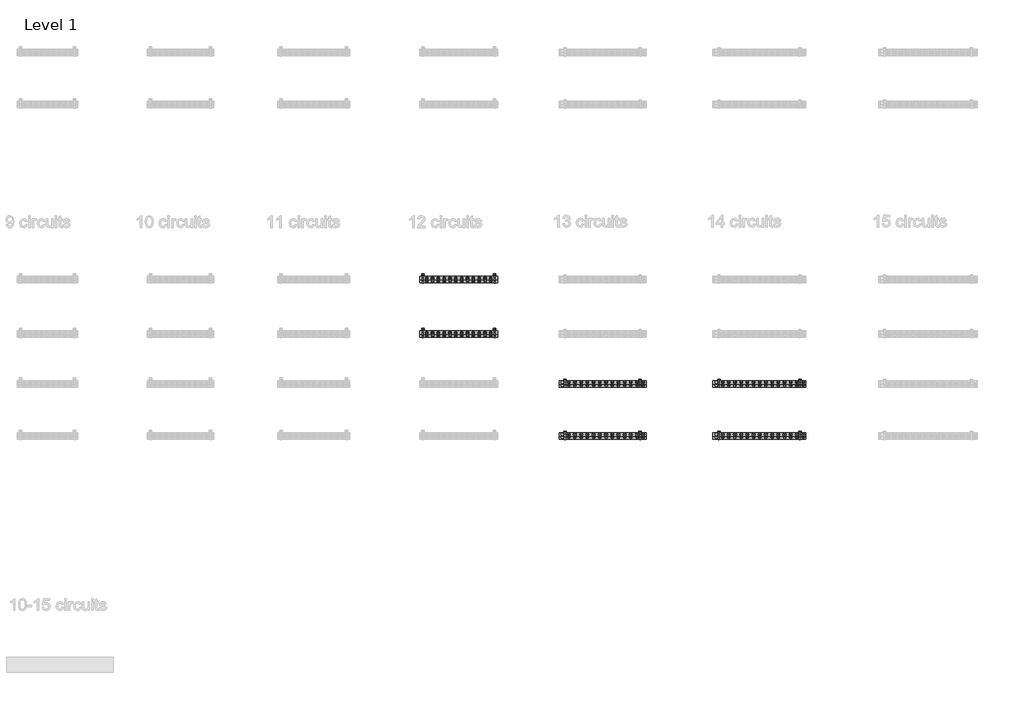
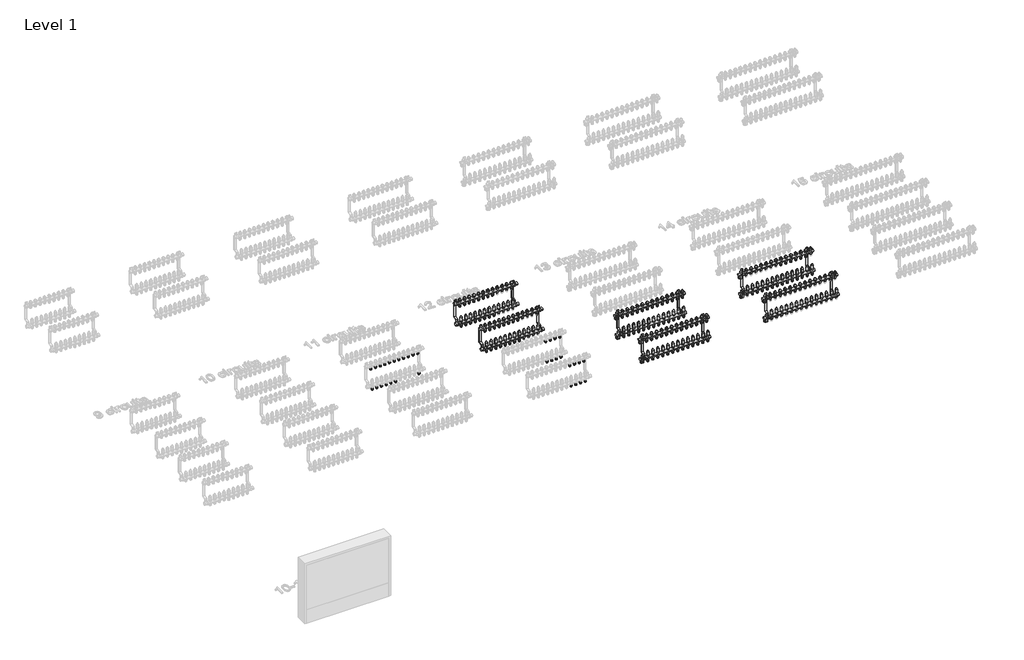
# One storey, part 5 of 23: 137 pipe fittings, 6 valves.
"""IFC4 building model written with IfcOpenShell, lengths in millimetres."""

from ifc_helpers import new_model, si_unit, origin, place, context, project, spatial, transform, mapped, element, save
from components import pipe_fitting_03c6499f, valve_28fdf4a6, valve_a7423dcf, valve_d379a65c, valve_24eee51e, valve_cb73cf64, valve_9b29a5eb, valve_b9f81a7f, valve_96d576d6, valve_5ad404c9, valve_4cbf1be7, valve_3248c627, valve_ecf45875

model = new_model("IFC4")

# Units and contexts
model_context = context("Model", 3, world=origin())
ifc_project = project(units=[si_unit("LENGTHUNIT", "METRE", prefix="MILLI")], contexts=[model_context])

# Site, building, storey
site = spatial("IfcSite", under=ifc_project)
building = spatial("IfcBuilding", under=site)
storey = spatial("IfcBuildingStorey", under=building, Name="Level 1", Elevation=0.0)

# Pipe fittings
placement = place(None, origin())
pipe_fitting_shape = pipe_fitting_03c6499f(model_context)
element("IfcPipeFitting", 1, ObjectType="Euroconus screwing for multilayer pipes - Manifold FT : Euroconus screwing for multilayer pipes - Manifold FT", at=placement, inside=storey, context=model_context, shape_type="MappedRepresentation", body=[
    mapped(pipe_fitting_shape, transform((11977.8887771, -1164.6959314, 62.88733), x_axis=(0.0, 0.0, -1.0), y_axis=(0.0, 1.0000000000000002, 0.0), z_axis=(1.0000000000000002, 0.0, 0.0))),
])
element("IfcPipeFitting", 2, ObjectType="Euroconus screwing for multilayer pipes - Manifold FT : Euroconus screwing for multilayer pipes - Manifold FT", at=placement, inside=storey, context=model_context, shape_type="MappedRepresentation", body=[
    mapped(pipe_fitting_shape, transform((11928.6160498, -1164.6959314, 62.88733), x_axis=(0.0, 0.0, -1.0), y_axis=(0.0, 1.0000000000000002, 0.0), z_axis=(1.0000000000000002, 0.0, 0.0))),
])
element("IfcPipeFitting", 3, ObjectType="Euroconus screwing for multilayer pipes - Manifold FT : Euroconus screwing for multilayer pipes - Manifold FT", at=placement, inside=storey, context=model_context, shape_type="MappedRepresentation", body=[
    mapped(pipe_fitting_shape, transform((11879.3433225, -1164.6959314, 62.88733), x_axis=(0.0, 0.0, -1.0), y_axis=(0.0, 1.0000000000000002, 0.0), z_axis=(1.0000000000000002, 0.0, 0.0))),
])
element("IfcPipeFitting", 4, ObjectType="Euroconus screwing for multilayer pipes - Manifold FT : Euroconus screwing for multilayer pipes - Manifold FT", at=placement, inside=storey, context=model_context, shape_type="MappedRepresentation", body=[
    mapped(pipe_fitting_shape, transform((11830.0705953, -1164.6959314, 62.88733), x_axis=(0.0, 0.0, -1.0), y_axis=(0.0, 1.0000000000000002, 0.0), z_axis=(1.0000000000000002, 0.0, 0.0))),
])
element("IfcPipeFitting", 5, ObjectType="Euroconus screwing for multilayer pipes - Manifold FT : Euroconus screwing for multilayer pipes - Manifold FT", at=placement, inside=storey, context=model_context, shape_type="MappedRepresentation", body=[
    mapped(pipe_fitting_shape, transform((11780.797868, -1164.6959314, 62.88733), x_axis=(0.0, 0.0, -1.0), y_axis=(0.0, 1.0000000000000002, 0.0), z_axis=(1.0000000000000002, 0.0, 0.0))),
])
element("IfcPipeFitting", 6, ObjectType="Euroconus screwing for multilayer pipes - Manifold FT : Euroconus screwing for multilayer pipes - Manifold FT", at=placement, inside=storey, context=model_context, shape_type="MappedRepresentation", body=[
    mapped(pipe_fitting_shape, transform((11731.5251407, -1164.6959314, 62.88733), x_axis=(0.0, 0.0, -1.0), y_axis=(0.0, 1.0000000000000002, 0.0), z_axis=(1.0000000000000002, 0.0, 0.0))),
])
element("IfcPipeFitting", 7, ObjectType="Euroconus screwing for multilayer pipes - Manifold FT : Euroconus screwing for multilayer pipes - Manifold FT", at=placement, inside=storey, context=model_context, shape_type="MappedRepresentation", body=[
    mapped(pipe_fitting_shape, transform((11682.2524134, -1164.6959314, 62.88733), x_axis=(0.0, 0.0, -1.0), y_axis=(0.0, 1.0000000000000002, 0.0), z_axis=(1.0000000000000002, 0.0, 0.0))),
])
element("IfcPipeFitting", 8, ObjectType="Euroconus screwing for multilayer pipes - Manifold FT : Euroconus screwing for multilayer pipes - Manifold FT", at=placement, inside=storey, context=model_context, shape_type="MappedRepresentation", body=[
    mapped(pipe_fitting_shape, transform((11977.8887771, -1139.6959314, 272.88733), x_axis=(0.0, 0.0, -1.0), y_axis=(0.0, 1.0000000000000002, 0.0), z_axis=(1.0000000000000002, 0.0, 0.0))),
])
element("IfcPipeFitting", 9, ObjectType="Euroconus screwing for multilayer pipes - Manifold FT : Euroconus screwing for multilayer pipes - Manifold FT", at=placement, inside=storey, context=model_context, shape_type="MappedRepresentation", body=[
    mapped(pipe_fitting_shape, transform((11928.6160498, -1139.6959314, 272.88733), x_axis=(0.0, 0.0, -1.0), y_axis=(0.0, 1.0000000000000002, 0.0), z_axis=(1.0000000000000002, 0.0, 0.0))),
])
element("IfcPipeFitting", 10, ObjectType="Euroconus screwing for multilayer pipes - Manifold FT : Euroconus screwing for multilayer pipes - Manifold FT", at=placement, inside=storey, context=model_context, shape_type="MappedRepresentation", body=[
    mapped(pipe_fitting_shape, transform((11879.3433225, -1139.6959314, 272.88733), x_axis=(0.0, 0.0, -1.0), y_axis=(0.0, 1.0000000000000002, 0.0), z_axis=(1.0000000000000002, 0.0, 0.0))),
])
element("IfcPipeFitting", 11, ObjectType="Euroconus screwing for multilayer pipes - Manifold FT : Euroconus screwing for multilayer pipes - Manifold FT", at=placement, inside=storey, context=model_context, shape_type="MappedRepresentation", body=[
    mapped(pipe_fitting_shape, transform((11830.0705953, -1139.6959314, 272.88733), x_axis=(0.0, 0.0, -1.0), y_axis=(0.0, 1.0000000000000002, 0.0), z_axis=(1.0000000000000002, 0.0, 0.0))),
])
element("IfcPipeFitting", 12, ObjectType="Euroconus screwing for multilayer pipes - Manifold FT : Euroconus screwing for multilayer pipes - Manifold FT", at=placement, inside=storey, context=model_context, shape_type="MappedRepresentation", body=[
    mapped(pipe_fitting_shape, transform((11780.797868, -1139.6959314, 272.88733), x_axis=(0.0, 0.0, -1.0), y_axis=(0.0, 1.0000000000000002, 0.0), z_axis=(1.0000000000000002, 0.0, 0.0))),
])
element("IfcPipeFitting", 13, ObjectType="Euroconus screwing for multilayer pipes - Manifold FT : Euroconus screwing for multilayer pipes - Manifold FT", at=placement, inside=storey, context=model_context, shape_type="MappedRepresentation", body=[
    mapped(pipe_fitting_shape, transform((11731.5251407, -1139.6959314, 272.88733), x_axis=(0.0, 0.0, -1.0), y_axis=(0.0, 1.0000000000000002, 0.0), z_axis=(1.0000000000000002, 0.0, 0.0))),
])
element("IfcPipeFitting", 14, ObjectType="Euroconus screwing for multilayer pipes - Manifold FT : Euroconus screwing for multilayer pipes - Manifold FT", at=placement, inside=storey, context=model_context, shape_type="MappedRepresentation", body=[
    mapped(pipe_fitting_shape, transform((11682.2524134, -1139.6959314, 272.88733), x_axis=(0.0, 0.0, -1.0), y_axis=(0.0, 1.0000000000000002, 0.0), z_axis=(1.0000000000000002, 0.0, 0.0))),
])
element("IfcPipeFitting", 15, ObjectType="Euroconus screwing for multilayer pipes - Manifold FT : Euroconus screwing for multilayer pipes - Manifold FT", at=placement, inside=storey, context=model_context, shape_type="MappedRepresentation", body=[
    mapped(pipe_fitting_shape, transform((11632.9796862, -1164.6959314, 62.88733), x_axis=(0.0, 0.0, -1.0), y_axis=(0.0, 1.0000000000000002, 0.0), z_axis=(1.0000000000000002, 0.0, 0.0))),
])
element("IfcPipeFitting", 16, ObjectType="Euroconus screwing for multilayer pipes - Manifold FT : Euroconus screwing for multilayer pipes - Manifold FT", at=placement, inside=storey, context=model_context, shape_type="MappedRepresentation", body=[
    mapped(pipe_fitting_shape, transform((11632.9796862, -1139.6959314, 272.88733), x_axis=(0.0, 0.0, -1.0), y_axis=(0.0, 1.0000000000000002, 0.0), z_axis=(1.0000000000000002, 0.0, 0.0))),
])
element("IfcPipeFitting", 17, ObjectType="Euroconus screwing for multilayer pipes - Manifold FT : Euroconus screwing for multilayer pipes - Manifold FT", at=placement, inside=storey, context=model_context, shape_type="MappedRepresentation", body=[
    mapped(pipe_fitting_shape, transform((10678.9796862, -1624.6959314, 62.88733), x_axis=(0.0, 0.0, -1.0), y_axis=(0.0, 1.0000000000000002, 0.0), z_axis=(1.0000000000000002, 0.0, 0.0))),
])
element("IfcPipeFitting", 18, ObjectType="Euroconus screwing for multilayer pipes - Manifold FT : Euroconus screwing for multilayer pipes - Manifold FT", at=placement, inside=storey, context=model_context, shape_type="MappedRepresentation", body=[
    mapped(pipe_fitting_shape, transform((10629.7796862, -1624.6959314, 62.88733), x_axis=(0.0, 0.0, -1.0), y_axis=(0.0, 1.0000000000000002, 0.0), z_axis=(1.0000000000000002, 0.0, 0.0))),
])
element("IfcPipeFitting", 19, ObjectType="Euroconus screwing for multilayer pipes - Manifold FT : Euroconus screwing for multilayer pipes - Manifold FT", at=placement, inside=storey, context=model_context, shape_type="MappedRepresentation", body=[
    mapped(pipe_fitting_shape, transform((10580.5796862, -1624.6959314, 62.88733), x_axis=(0.0, 0.0, -1.0), y_axis=(0.0, 1.0000000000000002, 0.0), z_axis=(1.0000000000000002, 0.0, 0.0))),
])
element("IfcPipeFitting", 20, ObjectType="Euroconus screwing for multilayer pipes - Manifold FT : Euroconus screwing for multilayer pipes - Manifold FT", at=placement, inside=storey, context=model_context, shape_type="MappedRepresentation", body=[
    mapped(pipe_fitting_shape, transform((10531.3796862, -1624.6959314, 62.88733), x_axis=(0.0, 0.0, -1.0), y_axis=(0.0, 1.0000000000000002, 0.0), z_axis=(1.0000000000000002, 0.0, 0.0))),
])
element("IfcPipeFitting", 21, ObjectType="Euroconus screwing for multilayer pipes - Manifold FT : Euroconus screwing for multilayer pipes - Manifold FT", at=placement, inside=storey, context=model_context, shape_type="MappedRepresentation", body=[
    mapped(pipe_fitting_shape, transform((10482.1796862, -1624.6959314, 62.88733), x_axis=(0.0, 0.0, -1.0), y_axis=(0.0, 1.0000000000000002, 0.0), z_axis=(1.0000000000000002, 0.0, 0.0))),
])
element("IfcPipeFitting", 22, ObjectType="Euroconus screwing for multilayer pipes - Manifold FT : Euroconus screwing for multilayer pipes - Manifold FT", at=placement, inside=storey, context=model_context, shape_type="MappedRepresentation", body=[
    mapped(pipe_fitting_shape, transform((10924.9796862, -1624.6959314, 62.88733), x_axis=(0.0, 0.0, -1.0), y_axis=(0.0, 1.0000000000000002, 0.0), z_axis=(1.0000000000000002, 0.0, 0.0))),
])
element("IfcPipeFitting", 23, ObjectType="Euroconus screwing for multilayer pipes - Manifold FT : Euroconus screwing for multilayer pipes - Manifold FT", at=placement, inside=storey, context=model_context, shape_type="MappedRepresentation", body=[
    mapped(pipe_fitting_shape, transform((10875.7796862, -1599.6959314, 272.88733), x_axis=(0.0, 0.0, -1.0), y_axis=(0.0, 1.0000000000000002, 0.0), z_axis=(1.0000000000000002, 0.0, 0.0))),
])
element("IfcPipeFitting", 24, ObjectType="Euroconus screwing for multilayer pipes - Manifold FT : Euroconus screwing for multilayer pipes - Manifold FT", at=placement, inside=storey, context=model_context, shape_type="MappedRepresentation", body=[
    mapped(pipe_fitting_shape, transform((10826.5796862, -1599.6959314, 272.88733), x_axis=(0.0, 0.0, -1.0), y_axis=(0.0, 1.0000000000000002, 0.0), z_axis=(1.0000000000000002, 0.0, 0.0))),
])
element("IfcPipeFitting", 25, ObjectType="Euroconus screwing for multilayer pipes - Manifold FT : Euroconus screwing for multilayer pipes - Manifold FT", at=placement, inside=storey, context=model_context, shape_type="MappedRepresentation", body=[
    mapped(pipe_fitting_shape, transform((10777.3796862, -1599.6959314, 272.88733), x_axis=(0.0, 0.0, -1.0), y_axis=(0.0, 1.0000000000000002, 0.0), z_axis=(1.0000000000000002, 0.0, 0.0))),
])
element("IfcPipeFitting", 26, ObjectType="Euroconus screwing for multilayer pipes - Manifold FT : Euroconus screwing for multilayer pipes - Manifold FT", at=placement, inside=storey, context=model_context, shape_type="MappedRepresentation", body=[
    mapped(pipe_fitting_shape, transform((10728.1796862, -1599.6959314, 272.88733), x_axis=(0.0, 0.0, -1.0), y_axis=(0.0, 1.0000000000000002, 0.0), z_axis=(1.0000000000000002, 0.0, 0.0))),
])
element("IfcPipeFitting", 27, ObjectType="Euroconus screwing for multilayer pipes - Manifold FT : Euroconus screwing for multilayer pipes - Manifold FT", at=placement, inside=storey, context=model_context, shape_type="MappedRepresentation", body=[
    mapped(pipe_fitting_shape, transform((10678.9796862, -1599.6959314, 272.88733), x_axis=(0.0, 0.0, -1.0), y_axis=(0.0, 1.0000000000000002, 0.0), z_axis=(1.0000000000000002, 0.0, 0.0))),
])
element("IfcPipeFitting", 28, ObjectType="Euroconus screwing for multilayer pipes - Manifold FT : Euroconus screwing for multilayer pipes - Manifold FT", at=placement, inside=storey, context=model_context, shape_type="MappedRepresentation", body=[
    mapped(pipe_fitting_shape, transform((10629.7796862, -1599.6959314, 272.88733), x_axis=(0.0, 0.0, -1.0), y_axis=(0.0, 1.0000000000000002, 0.0), z_axis=(1.0000000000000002, 0.0, 0.0))),
])
element("IfcPipeFitting", 29, ObjectType="Euroconus screwing for multilayer pipes - Manifold FT : Euroconus screwing for multilayer pipes - Manifold FT", at=placement, inside=storey, context=model_context, shape_type="MappedRepresentation", body=[
    mapped(pipe_fitting_shape, transform((10580.5796862, -1599.6959314, 272.88733), x_axis=(0.0, 0.0, -1.0), y_axis=(0.0, 1.0000000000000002, 0.0), z_axis=(1.0000000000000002, 0.0, 0.0))),
])
element("IfcPipeFitting", 30, ObjectType="Euroconus screwing for multilayer pipes - Manifold FT : Euroconus screwing for multilayer pipes - Manifold FT", at=placement, inside=storey, context=model_context, shape_type="MappedRepresentation", body=[
    mapped(pipe_fitting_shape, transform((10531.3796862, -1599.6959314, 272.88733), x_axis=(0.0, 0.0, -1.0), y_axis=(0.0, 1.0000000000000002, 0.0), z_axis=(1.0000000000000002, 0.0, 0.0))),
])
element("IfcPipeFitting", 31, ObjectType="Euroconus screwing for multilayer pipes - Manifold FT : Euroconus screwing for multilayer pipes - Manifold FT", at=placement, inside=storey, context=model_context, shape_type="MappedRepresentation", body=[
    mapped(pipe_fitting_shape, transform((10482.1796862, -1599.6959314, 272.88733), x_axis=(0.0, 0.0, -1.0), y_axis=(0.0, 1.0000000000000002, 0.0), z_axis=(1.0000000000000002, 0.0, 0.0))),
])
element("IfcPipeFitting", 32, ObjectType="Euroconus screwing for multilayer pipes - Manifold FT : Euroconus screwing for multilayer pipes - Manifold FT", at=placement, inside=storey, context=model_context, shape_type="MappedRepresentation", body=[
    mapped(pipe_fitting_shape, transform((10924.9796862, -1599.6959314, 272.88733), x_axis=(0.0, 0.0, -1.0), y_axis=(0.0, 1.0000000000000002, 0.0), z_axis=(1.0000000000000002, 0.0, 0.0))),
])
element("IfcPipeFitting", 33, ObjectType="Euroconus screwing for multilayer pipes - Manifold FT : Euroconus screwing for multilayer pipes - Manifold FT", at=placement, inside=storey, context=model_context, shape_type="MappedRepresentation", body=[
    mapped(pipe_fitting_shape, transform((10432.9796862, -1624.6959314, 62.88733), x_axis=(0.0, 0.0, -1.0), y_axis=(0.0, 1.0000000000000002, 0.0), z_axis=(1.0000000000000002, 0.0, 0.0))),
])
element("IfcPipeFitting", 34, ObjectType="Euroconus screwing for multilayer pipes - Manifold FT : Euroconus screwing for multilayer pipes - Manifold FT", at=placement, inside=storey, context=model_context, shape_type="MappedRepresentation", body=[
    mapped(pipe_fitting_shape, transform((10432.9796862, -1599.6959314, 272.88733), x_axis=(0.0, 0.0, -1.0), y_axis=(0.0, 1.0000000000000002, 0.0), z_axis=(1.0000000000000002, 0.0, 0.0))),
])
element("IfcPipeFitting", 35, ObjectType="Euroconus screwing for multilayer pipes - Manifold FT : Euroconus screwing for multilayer pipes - Manifold FT", at=placement, inside=storey, context=model_context, shape_type="MappedRepresentation", body=[
    mapped(pipe_fitting_shape, transform((11977.8887771, -1624.6959314, 62.88733), x_axis=(0.0, 0.0, -1.0), y_axis=(0.0, 1.0000000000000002, 0.0), z_axis=(1.0000000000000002, 0.0, 0.0))),
])
element("IfcPipeFitting", 36, ObjectType="Euroconus screwing for multilayer pipes - Manifold FT : Euroconus screwing for multilayer pipes - Manifold FT", at=placement, inside=storey, context=model_context, shape_type="MappedRepresentation", body=[
    mapped(pipe_fitting_shape, transform((11928.6160498, -1624.6959314, 62.88733), x_axis=(0.0, 0.0, -1.0), y_axis=(0.0, 1.0000000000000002, 0.0), z_axis=(1.0000000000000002, 0.0, 0.0))),
])
element("IfcPipeFitting", 37, ObjectType="Euroconus screwing for multilayer pipes - Manifold FT : Euroconus screwing for multilayer pipes - Manifold FT", at=placement, inside=storey, context=model_context, shape_type="MappedRepresentation", body=[
    mapped(pipe_fitting_shape, transform((11879.3433225, -1624.6959314, 62.88733), x_axis=(0.0, 0.0, -1.0), y_axis=(0.0, 1.0000000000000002, 0.0), z_axis=(1.0000000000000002, 0.0, 0.0))),
])
element("IfcPipeFitting", 38, ObjectType="Euroconus screwing for multilayer pipes - Manifold FT : Euroconus screwing for multilayer pipes - Manifold FT", at=placement, inside=storey, context=model_context, shape_type="MappedRepresentation", body=[
    mapped(pipe_fitting_shape, transform((11830.0705953, -1624.6959314, 62.88733), x_axis=(0.0, 0.0, -1.0), y_axis=(0.0, 1.0000000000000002, 0.0), z_axis=(1.0000000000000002, 0.0, 0.0))),
])
element("IfcPipeFitting", 39, ObjectType="Euroconus screwing for multilayer pipes - Manifold FT : Euroconus screwing for multilayer pipes - Manifold FT", at=placement, inside=storey, context=model_context, shape_type="MappedRepresentation", body=[
    mapped(pipe_fitting_shape, transform((11780.797868, -1624.6959314, 62.88733), x_axis=(0.0, 0.0, -1.0), y_axis=(0.0, 1.0000000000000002, 0.0), z_axis=(1.0000000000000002, 0.0, 0.0))),
])
element("IfcPipeFitting", 40, ObjectType="Euroconus screwing for multilayer pipes - Manifold FT : Euroconus screwing for multilayer pipes - Manifold FT", at=placement, inside=storey, context=model_context, shape_type="MappedRepresentation", body=[
    mapped(pipe_fitting_shape, transform((11731.5251407, -1624.6959314, 62.88733), x_axis=(0.0, 0.0, -1.0), y_axis=(0.0, 1.0000000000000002, 0.0), z_axis=(1.0000000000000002, 0.0, 0.0))),
])
element("IfcPipeFitting", 41, ObjectType="Euroconus screwing for multilayer pipes - Manifold FT : Euroconus screwing for multilayer pipes - Manifold FT", at=placement, inside=storey, context=model_context, shape_type="MappedRepresentation", body=[
    mapped(pipe_fitting_shape, transform((11682.2524134, -1624.6959314, 62.88733), x_axis=(0.0, 0.0, -1.0), y_axis=(0.0, 1.0000000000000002, 0.0), z_axis=(1.0000000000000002, 0.0, 0.0))),
])
element("IfcPipeFitting", 42, ObjectType="Euroconus screwing for multilayer pipes - Manifold FT : Euroconus screwing for multilayer pipes - Manifold FT", at=placement, inside=storey, context=model_context, shape_type="MappedRepresentation", body=[
    mapped(pipe_fitting_shape, transform((11977.8887771, -1599.6959314, 272.88733), x_axis=(0.0, 0.0, -1.0), y_axis=(0.0, 1.0000000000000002, 0.0), z_axis=(1.0000000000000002, 0.0, 0.0))),
])
element("IfcPipeFitting", 43, ObjectType="Euroconus screwing for multilayer pipes - Manifold FT : Euroconus screwing for multilayer pipes - Manifold FT", at=placement, inside=storey, context=model_context, shape_type="MappedRepresentation", body=[
    mapped(pipe_fitting_shape, transform((11928.6160498, -1599.6959314, 272.88733), x_axis=(0.0, 0.0, -1.0), y_axis=(0.0, 1.0000000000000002, 0.0), z_axis=(1.0000000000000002, 0.0, 0.0))),
])
element("IfcPipeFitting", 44, ObjectType="Euroconus screwing for multilayer pipes - Manifold FT : Euroconus screwing for multilayer pipes - Manifold FT", at=placement, inside=storey, context=model_context, shape_type="MappedRepresentation", body=[
    mapped(pipe_fitting_shape, transform((11879.3433225, -1599.6959314, 272.88733), x_axis=(0.0, 0.0, -1.0), y_axis=(0.0, 1.0000000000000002, 0.0), z_axis=(1.0000000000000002, 0.0, 0.0))),
])
element("IfcPipeFitting", 45, ObjectType="Euroconus screwing for multilayer pipes - Manifold FT : Euroconus screwing for multilayer pipes - Manifold FT", at=placement, inside=storey, context=model_context, shape_type="MappedRepresentation", body=[
    mapped(pipe_fitting_shape, transform((11830.0705953, -1599.6959314, 272.88733), x_axis=(0.0, 0.0, -1.0), y_axis=(0.0, 1.0000000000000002, 0.0), z_axis=(1.0000000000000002, 0.0, 0.0))),
])
element("IfcPipeFitting", 46, ObjectType="Euroconus screwing for multilayer pipes - Manifold FT : Euroconus screwing for multilayer pipes - Manifold FT", at=placement, inside=storey, context=model_context, shape_type="MappedRepresentation", body=[
    mapped(pipe_fitting_shape, transform((11780.797868, -1599.6959314, 272.88733), x_axis=(0.0, 0.0, -1.0), y_axis=(0.0, 1.0000000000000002, 0.0), z_axis=(1.0000000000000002, 0.0, 0.0))),
])
element("IfcPipeFitting", 47, ObjectType="Euroconus screwing for multilayer pipes - Manifold FT : Euroconus screwing for multilayer pipes - Manifold FT", at=placement, inside=storey, context=model_context, shape_type="MappedRepresentation", body=[
    mapped(pipe_fitting_shape, transform((11731.5251407, -1599.6959314, 272.88733), x_axis=(0.0, 0.0, -1.0), y_axis=(0.0, 1.0000000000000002, 0.0), z_axis=(1.0000000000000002, 0.0, 0.0))),
])
element("IfcPipeFitting", 48, ObjectType="Euroconus screwing for multilayer pipes - Manifold FT : Euroconus screwing for multilayer pipes - Manifold FT", at=placement, inside=storey, context=model_context, shape_type="MappedRepresentation", body=[
    mapped(pipe_fitting_shape, transform((11682.2524134, -1599.6959314, 272.88733), x_axis=(0.0, 0.0, -1.0), y_axis=(0.0, 1.0000000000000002, 0.0), z_axis=(1.0000000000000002, 0.0, 0.0))),
])
element("IfcPipeFitting", 49, ObjectType="Euroconus screwing for multilayer pipes - Manifold FT : Euroconus screwing for multilayer pipes - Manifold FT", at=placement, inside=storey, context=model_context, shape_type="MappedRepresentation", body=[
    mapped(pipe_fitting_shape, transform((11632.9796862, -1624.6959314, 62.88733), x_axis=(0.0, 0.0, -1.0), y_axis=(0.0, 1.0000000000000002, 0.0), z_axis=(1.0000000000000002, 0.0, 0.0))),
])
element("IfcPipeFitting", 50, ObjectType="Euroconus screwing for multilayer pipes - Manifold FT : Euroconus screwing for multilayer pipes - Manifold FT", at=placement, inside=storey, context=model_context, shape_type="MappedRepresentation", body=[
    mapped(pipe_fitting_shape, transform((11632.9796862, -1599.6959314, 272.88733), x_axis=(0.0, 0.0, -1.0), y_axis=(0.0, 1.0000000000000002, 0.0), z_axis=(1.0000000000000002, 0.0, 0.0))),
])
element("IfcPipeFitting", 51, ObjectType="Euroconus screwing for multilayer pipes - Manifold FT : Euroconus screwing for multilayer pipes - Manifold FT", at=placement, inside=storey, context=model_context, shape_type="MappedRepresentation", body=[
    mapped(pipe_fitting_shape, transform((12125.7069589, -2044.6959314, 62.88733), x_axis=(0.0, 0.0, -1.0), y_axis=(0.0, 1.0000000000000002, 0.0), z_axis=(1.0000000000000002, 0.0, 0.0))),
])
element("IfcPipeFitting", 52, ObjectType="Euroconus screwing for multilayer pipes - Manifold FT : Euroconus screwing for multilayer pipes - Manifold FT", at=placement, inside=storey, context=model_context, shape_type="MappedRepresentation", body=[
    mapped(pipe_fitting_shape, transform((12076.4342316, -2044.6959314, 62.88733), x_axis=(0.0, 0.0, -1.0), y_axis=(0.0, 1.0000000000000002, 0.0), z_axis=(1.0000000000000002, 0.0, 0.0))),
])
element("IfcPipeFitting", 53, ObjectType="Euroconus screwing for multilayer pipes - Manifold FT : Euroconus screwing for multilayer pipes - Manifold FT", at=placement, inside=storey, context=model_context, shape_type="MappedRepresentation", body=[
    mapped(pipe_fitting_shape, transform((12027.1615043, -2044.6959314, 62.88733), x_axis=(0.0, 0.0, -1.0), y_axis=(0.0, 1.0000000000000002, 0.0), z_axis=(1.0000000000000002, 0.0, 0.0))),
])
element("IfcPipeFitting", 54, ObjectType="Euroconus screwing for multilayer pipes - Manifold FT : Euroconus screwing for multilayer pipes - Manifold FT", at=placement, inside=storey, context=model_context, shape_type="MappedRepresentation", body=[
    mapped(pipe_fitting_shape, transform((12174.9796862, -2044.6959314, 62.88733), x_axis=(0.0, 0.0, -1.0), y_axis=(0.0, 1.0000000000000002, 0.0), z_axis=(1.0000000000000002, 0.0, 0.0))),
])
element("IfcPipeFitting", 55, ObjectType="Euroconus screwing for multilayer pipes - Manifold FT : Euroconus screwing for multilayer pipes - Manifold FT", at=placement, inside=storey, context=model_context, shape_type="MappedRepresentation", body=[
    mapped(pipe_fitting_shape, transform((12125.7069589, -2019.6959314, 272.88733), x_axis=(0.0, 0.0, -1.0), y_axis=(0.0, 1.0000000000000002, 0.0), z_axis=(1.0000000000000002, 0.0, 0.0))),
])
element("IfcPipeFitting", 56, ObjectType="Euroconus screwing for multilayer pipes - Manifold FT : Euroconus screwing for multilayer pipes - Manifold FT", at=placement, inside=storey, context=model_context, shape_type="MappedRepresentation", body=[
    mapped(pipe_fitting_shape, transform((12076.4342316, -2019.6959314, 272.88733), x_axis=(0.0, 0.0, -1.0), y_axis=(0.0, 1.0000000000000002, 0.0), z_axis=(1.0000000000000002, 0.0, 0.0))),
])
element("IfcPipeFitting", 57, ObjectType="Euroconus screwing for multilayer pipes - Manifold FT : Euroconus screwing for multilayer pipes - Manifold FT", at=placement, inside=storey, context=model_context, shape_type="MappedRepresentation", body=[
    mapped(pipe_fitting_shape, transform((12027.1615043, -2019.6959314, 272.88733), x_axis=(0.0, 0.0, -1.0), y_axis=(0.0, 1.0000000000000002, 0.0), z_axis=(1.0000000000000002, 0.0, 0.0))),
])
element("IfcPipeFitting", 58, ObjectType="Euroconus screwing for multilayer pipes - Manifold FT : Euroconus screwing for multilayer pipes - Manifold FT", at=placement, inside=storey, context=model_context, shape_type="MappedRepresentation", body=[
    mapped(pipe_fitting_shape, transform((12174.9796862, -2019.6959314, 272.88733), x_axis=(0.0, 0.0, -1.0), y_axis=(0.0, 1.0000000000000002, 0.0), z_axis=(1.0000000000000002, 0.0, 0.0))),
])
element("IfcPipeFitting", 59, ObjectType="Euroconus screwing for multilayer pipes - Manifold FT : Euroconus screwing for multilayer pipes - Manifold FT", at=placement, inside=storey, context=model_context, shape_type="MappedRepresentation", body=[
    mapped(pipe_fitting_shape, transform((13410.4796862, -2044.6959314, 62.88733), x_axis=(0.0, 0.0, -1.0), y_axis=(0.0, 1.0000000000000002, 0.0), z_axis=(1.0000000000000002, 0.0, 0.0))),
])
element("IfcPipeFitting", 60, ObjectType="Euroconus screwing for multilayer pipes - Manifold FT : Euroconus screwing for multilayer pipes - Manifold FT", at=placement, inside=storey, context=model_context, shape_type="MappedRepresentation", body=[
    mapped(pipe_fitting_shape, transform((13357.9796862, -2044.6959314, 62.88733), x_axis=(0.0, 0.0, -1.0), y_axis=(0.0, 1.0000000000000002, 0.0), z_axis=(1.0000000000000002, 0.0, 0.0))),
])
element("IfcPipeFitting", 61, ObjectType="Euroconus screwing for multilayer pipes - Manifold FT : Euroconus screwing for multilayer pipes - Manifold FT", at=placement, inside=storey, context=model_context, shape_type="MappedRepresentation", body=[
    mapped(pipe_fitting_shape, transform((13305.4796862, -2044.6959314, 62.88733), x_axis=(0.0, 0.0, -1.0), y_axis=(0.0, 1.0000000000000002, 0.0), z_axis=(1.0000000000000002, 0.0, 0.0))),
])
element("IfcPipeFitting", 62, ObjectType="Euroconus screwing for multilayer pipes - Manifold FT : Euroconus screwing for multilayer pipes - Manifold FT", at=placement, inside=storey, context=model_context, shape_type="MappedRepresentation", body=[
    mapped(pipe_fitting_shape, transform((13252.9796862, -2044.6959314, 62.88733), x_axis=(0.0, 0.0, -1.0), y_axis=(0.0, 1.0000000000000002, 0.0), z_axis=(1.0000000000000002, 0.0, 0.0))),
])
element("IfcPipeFitting", 63, ObjectType="Euroconus screwing for multilayer pipes - Manifold FT : Euroconus screwing for multilayer pipes - Manifold FT", at=placement, inside=storey, context=model_context, shape_type="MappedRepresentation", body=[
    mapped(pipe_fitting_shape, transform((13200.4796862, -2044.6959314, 62.88733), x_axis=(0.0, 0.0, -1.0), y_axis=(0.0, 1.0000000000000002, 0.0), z_axis=(1.0000000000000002, 0.0, 0.0))),
])
element("IfcPipeFitting", 64, ObjectType="Euroconus screwing for multilayer pipes - Manifold FT : Euroconus screwing for multilayer pipes - Manifold FT", at=placement, inside=storey, context=model_context, shape_type="MappedRepresentation", body=[
    mapped(pipe_fitting_shape, transform((13147.9796862, -2044.6959314, 62.88733), x_axis=(0.0, 0.0, -1.0), y_axis=(0.0, 1.0000000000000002, 0.0), z_axis=(1.0000000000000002, 0.0, 0.0))),
])
element("IfcPipeFitting", 65, ObjectType="Euroconus screwing for multilayer pipes - Manifold FT : Euroconus screwing for multilayer pipes - Manifold FT", at=placement, inside=storey, context=model_context, shape_type="MappedRepresentation", body=[
    mapped(pipe_fitting_shape, transform((13095.4796862, -2044.6959314, 62.88733), x_axis=(0.0, 0.0, -1.0), y_axis=(0.0, 1.0000000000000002, 0.0), z_axis=(1.0000000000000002, 0.0, 0.0))),
])
element("IfcPipeFitting", 66, ObjectType="Euroconus screwing for multilayer pipes - Manifold FT : Euroconus screwing for multilayer pipes - Manifold FT", at=placement, inside=storey, context=model_context, shape_type="MappedRepresentation", body=[
    mapped(pipe_fitting_shape, transform((13042.9796862, -2044.6959314, 62.88733), x_axis=(0.0, 0.0, -1.0), y_axis=(0.0, 1.0000000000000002, 0.0), z_axis=(1.0000000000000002, 0.0, 0.0))),
])
element("IfcPipeFitting", 67, ObjectType="Euroconus screwing for multilayer pipes - Manifold FT : Euroconus screwing for multilayer pipes - Manifold FT", at=placement, inside=storey, context=model_context, shape_type="MappedRepresentation", body=[
    mapped(pipe_fitting_shape, transform((12990.4796862, -2044.6959314, 62.88733), x_axis=(0.0, 0.0, -1.0), y_axis=(0.0, 1.0000000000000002, 0.0), z_axis=(1.0000000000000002, 0.0, 0.0))),
])
element("IfcPipeFitting", 68, ObjectType="Euroconus screwing for multilayer pipes - Manifold FT : Euroconus screwing for multilayer pipes - Manifold FT", at=placement, inside=storey, context=model_context, shape_type="MappedRepresentation", body=[
    mapped(pipe_fitting_shape, transform((12937.9796862, -2044.6959314, 62.88733), x_axis=(0.0, 0.0, -1.0), y_axis=(0.0, 1.0000000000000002, 0.0), z_axis=(1.0000000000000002, 0.0, 0.0))),
])
element("IfcPipeFitting", 69, ObjectType="Euroconus screwing for multilayer pipes - Manifold FT : Euroconus screwing for multilayer pipes - Manifold FT", at=placement, inside=storey, context=model_context, shape_type="MappedRepresentation", body=[
    mapped(pipe_fitting_shape, transform((12885.4796862, -2044.6959314, 62.88733), x_axis=(0.0, 0.0, -1.0), y_axis=(0.0, 1.0000000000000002, 0.0), z_axis=(1.0000000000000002, 0.0, 0.0))),
])
element("IfcPipeFitting", 70, ObjectType="Euroconus screwing for multilayer pipes - Manifold FT : Euroconus screwing for multilayer pipes - Manifold FT", at=placement, inside=storey, context=model_context, shape_type="MappedRepresentation", body=[
    mapped(pipe_fitting_shape, transform((13462.9796862, -2044.6959314, 62.88733), x_axis=(0.0, 0.0, -1.0), y_axis=(0.0, 1.0000000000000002, 0.0), z_axis=(1.0000000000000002, 0.0, 0.0))),
])
element("IfcPipeFitting", 71, ObjectType="Euroconus screwing for multilayer pipes - Manifold FT : Euroconus screwing for multilayer pipes - Manifold FT", at=placement, inside=storey, context=model_context, shape_type="MappedRepresentation", body=[
    mapped(pipe_fitting_shape, transform((13410.4796862, -2019.6959314, 262.88733), x_axis=(0.0, 0.0, -1.0), y_axis=(0.0, 1.0000000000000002, 0.0), z_axis=(1.0000000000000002, 0.0, 0.0))),
])
element("IfcPipeFitting", 72, ObjectType="Euroconus screwing for multilayer pipes - Manifold FT : Euroconus screwing for multilayer pipes - Manifold FT", at=placement, inside=storey, context=model_context, shape_type="MappedRepresentation", body=[
    mapped(pipe_fitting_shape, transform((13357.9796862, -2019.6959314, 262.88733), x_axis=(0.0, 0.0, -1.0), y_axis=(0.0, 1.0000000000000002, 0.0), z_axis=(1.0000000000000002, 0.0, 0.0))),
])
element("IfcPipeFitting", 73, ObjectType="Euroconus screwing for multilayer pipes - Manifold FT : Euroconus screwing for multilayer pipes - Manifold FT", at=placement, inside=storey, context=model_context, shape_type="MappedRepresentation", body=[
    mapped(pipe_fitting_shape, transform((13305.4796862, -2019.6959314, 262.88733), x_axis=(0.0, 0.0, -1.0), y_axis=(0.0, 1.0000000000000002, 0.0), z_axis=(1.0000000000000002, 0.0, 0.0))),
])
element("IfcPipeFitting", 74, ObjectType="Euroconus screwing for multilayer pipes - Manifold FT : Euroconus screwing for multilayer pipes - Manifold FT", at=placement, inside=storey, context=model_context, shape_type="MappedRepresentation", body=[
    mapped(pipe_fitting_shape, transform((13252.9796862, -2019.6959314, 262.88733), x_axis=(0.0, 0.0, -1.0), y_axis=(0.0, 1.0000000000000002, 0.0), z_axis=(1.0000000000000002, 0.0, 0.0))),
])
element("IfcPipeFitting", 75, ObjectType="Euroconus screwing for multilayer pipes - Manifold FT : Euroconus screwing for multilayer pipes - Manifold FT", at=placement, inside=storey, context=model_context, shape_type="MappedRepresentation", body=[
    mapped(pipe_fitting_shape, transform((13200.4796862, -2019.6959314, 262.88733), x_axis=(0.0, 0.0, -1.0), y_axis=(0.0, 1.0000000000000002, 0.0), z_axis=(1.0000000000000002, 0.0, 0.0))),
])
element("IfcPipeFitting", 76, ObjectType="Euroconus screwing for multilayer pipes - Manifold FT : Euroconus screwing for multilayer pipes - Manifold FT", at=placement, inside=storey, context=model_context, shape_type="MappedRepresentation", body=[
    mapped(pipe_fitting_shape, transform((13147.9796862, -2019.6959314, 262.88733), x_axis=(0.0, 0.0, -1.0), y_axis=(0.0, 1.0000000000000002, 0.0), z_axis=(1.0000000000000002, 0.0, 0.0))),
])
element("IfcPipeFitting", 77, ObjectType="Euroconus screwing for multilayer pipes - Manifold FT : Euroconus screwing for multilayer pipes - Manifold FT", at=placement, inside=storey, context=model_context, shape_type="MappedRepresentation", body=[
    mapped(pipe_fitting_shape, transform((13095.4796862, -2019.6959314, 262.88733), x_axis=(0.0, 0.0, -1.0), y_axis=(0.0, 1.0000000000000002, 0.0), z_axis=(1.0000000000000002, 0.0, 0.0))),
])
element("IfcPipeFitting", 78, ObjectType="Euroconus screwing for multilayer pipes - Manifold FT : Euroconus screwing for multilayer pipes - Manifold FT", at=placement, inside=storey, context=model_context, shape_type="MappedRepresentation", body=[
    mapped(pipe_fitting_shape, transform((13042.9796862, -2019.6959314, 262.88733), x_axis=(0.0, 0.0, -1.0), y_axis=(0.0, 1.0000000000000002, 0.0), z_axis=(1.0000000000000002, 0.0, 0.0))),
])
element("IfcPipeFitting", 79, ObjectType="Euroconus screwing for multilayer pipes - Manifold FT : Euroconus screwing for multilayer pipes - Manifold FT", at=placement, inside=storey, context=model_context, shape_type="MappedRepresentation", body=[
    mapped(pipe_fitting_shape, transform((12990.4796862, -2019.6959314, 262.88733), x_axis=(0.0, 0.0, -1.0), y_axis=(0.0, 1.0000000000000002, 0.0), z_axis=(1.0000000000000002, 0.0, 0.0))),
])
element("IfcPipeFitting", 80, ObjectType="Euroconus screwing for multilayer pipes - Manifold FT : Euroconus screwing for multilayer pipes - Manifold FT", at=placement, inside=storey, context=model_context, shape_type="MappedRepresentation", body=[
    mapped(pipe_fitting_shape, transform((12937.9796862, -2019.6959314, 262.88733), x_axis=(0.0, 0.0, -1.0), y_axis=(0.0, 1.0000000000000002, 0.0), z_axis=(1.0000000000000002, 0.0, 0.0))),
])
element("IfcPipeFitting", 81, ObjectType="Euroconus screwing for multilayer pipes - Manifold FT : Euroconus screwing for multilayer pipes - Manifold FT", at=placement, inside=storey, context=model_context, shape_type="MappedRepresentation", body=[
    mapped(pipe_fitting_shape, transform((12885.4796862, -2019.6959314, 262.88733), x_axis=(0.0, 0.0, -1.0), y_axis=(0.0, 1.0000000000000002, 0.0), z_axis=(1.0000000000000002, 0.0, 0.0))),
])
element("IfcPipeFitting", 82, ObjectType="Euroconus screwing for multilayer pipes - Manifold FT : Euroconus screwing for multilayer pipes - Manifold FT", at=placement, inside=storey, context=model_context, shape_type="MappedRepresentation", body=[
    mapped(pipe_fitting_shape, transform((13462.9796862, -2019.6959314, 262.88733), x_axis=(0.0, 0.0, -1.0), y_axis=(0.0, 1.0000000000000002, 0.0), z_axis=(1.0000000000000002, 0.0, 0.0))),
])
element("IfcPipeFitting", 83, ObjectType="Euroconus screwing for multilayer pipes - Manifold FT : Euroconus screwing for multilayer pipes - Manifold FT", at=placement, inside=storey, context=model_context, shape_type="MappedRepresentation", body=[
    mapped(pipe_fitting_shape, transform((12832.9796862, -2044.6959314, 62.88733), x_axis=(0.0, 0.0, -1.0), y_axis=(0.0, 1.0000000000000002, 0.0), z_axis=(1.0000000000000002, 0.0, 0.0))),
])
element("IfcPipeFitting", 84, ObjectType="Euroconus screwing for multilayer pipes - Manifold FT : Euroconus screwing for multilayer pipes - Manifold FT", at=placement, inside=storey, context=model_context, shape_type="MappedRepresentation", body=[
    mapped(pipe_fitting_shape, transform((12832.9796862, -2019.6959314, 262.88733), x_axis=(0.0, 0.0, -1.0), y_axis=(0.0, 1.0000000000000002, 0.0), z_axis=(1.0000000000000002, 0.0, 0.0))),
])
element("IfcPipeFitting", 85, ObjectType="Euroconus screwing for multilayer pipes - Manifold FT : Euroconus screwing for multilayer pipes - Manifold FT", at=placement, inside=storey, context=model_context, shape_type="MappedRepresentation", body=[
    mapped(pipe_fitting_shape, transform((14760.6719939, -2044.6959314, 62.88733), x_axis=(0.0, 0.0, -1.0), y_axis=(0.0, 1.0000000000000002, 0.0), z_axis=(1.0000000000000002, 0.0, 0.0))),
])
element("IfcPipeFitting", 86, ObjectType="Euroconus screwing for multilayer pipes - Manifold FT : Euroconus screwing for multilayer pipes - Manifold FT", at=placement, inside=storey, context=model_context, shape_type="MappedRepresentation", body=[
    mapped(pipe_fitting_shape, transform((14708.3643015, -2044.6959314, 62.88733), x_axis=(0.0, 0.0, -1.0), y_axis=(0.0, 1.0000000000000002, 0.0), z_axis=(1.0000000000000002, 0.0, 0.0))),
])
element("IfcPipeFitting", 87, ObjectType="Euroconus screwing for multilayer pipes - Manifold FT : Euroconus screwing for multilayer pipes - Manifold FT", at=placement, inside=storey, context=model_context, shape_type="MappedRepresentation", body=[
    mapped(pipe_fitting_shape, transform((14656.0566092, -2044.6959314, 62.88733), x_axis=(0.0, 0.0, -1.0), y_axis=(0.0, 1.0000000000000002, 0.0), z_axis=(1.0000000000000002, 0.0, 0.0))),
])
element("IfcPipeFitting", 88, ObjectType="Euroconus screwing for multilayer pipes - Manifold FT : Euroconus screwing for multilayer pipes - Manifold FT", at=placement, inside=storey, context=model_context, shape_type="MappedRepresentation", body=[
    mapped(pipe_fitting_shape, transform((14603.7489169, -2044.6959314, 62.88733), x_axis=(0.0, 0.0, -1.0), y_axis=(0.0, 1.0000000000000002, 0.0), z_axis=(1.0000000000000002, 0.0, 0.0))),
])
element("IfcPipeFitting", 89, ObjectType="Euroconus screwing for multilayer pipes - Manifold FT : Euroconus screwing for multilayer pipes - Manifold FT", at=placement, inside=storey, context=model_context, shape_type="MappedRepresentation", body=[
    mapped(pipe_fitting_shape, transform((14551.4412246, -2044.6959314, 62.88733), x_axis=(0.0, 0.0, -1.0), y_axis=(0.0, 1.0000000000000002, 0.0), z_axis=(1.0000000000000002, 0.0, 0.0))),
])
element("IfcPipeFitting", 90, ObjectType="Euroconus screwing for multilayer pipes - Manifold FT : Euroconus screwing for multilayer pipes - Manifold FT", at=placement, inside=storey, context=model_context, shape_type="MappedRepresentation", body=[
    mapped(pipe_fitting_shape, transform((14499.1335323, -2044.6959314, 62.88733), x_axis=(0.0, 0.0, -1.0), y_axis=(0.0, 1.0000000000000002, 0.0), z_axis=(1.0000000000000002, 0.0, 0.0))),
])
element("IfcPipeFitting", 91, ObjectType="Euroconus screwing for multilayer pipes - Manifold FT : Euroconus screwing for multilayer pipes - Manifold FT", at=placement, inside=storey, context=model_context, shape_type="MappedRepresentation", body=[
    mapped(pipe_fitting_shape, transform((14446.82584, -2044.6959314, 62.88733), x_axis=(0.0, 0.0, -1.0), y_axis=(0.0, 1.0000000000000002, 0.0), z_axis=(1.0000000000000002, 0.0, 0.0))),
])
element("IfcPipeFitting", 92, ObjectType="Euroconus screwing for multilayer pipes - Manifold FT : Euroconus screwing for multilayer pipes - Manifold FT", at=placement, inside=storey, context=model_context, shape_type="MappedRepresentation", body=[
    mapped(pipe_fitting_shape, transform((14394.5181477, -2044.6959314, 62.88733), x_axis=(0.0, 0.0, -1.0), y_axis=(0.0, 1.0000000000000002, 0.0), z_axis=(1.0000000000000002, 0.0, 0.0))),
])
element("IfcPipeFitting", 93, ObjectType="Euroconus screwing for multilayer pipes - Manifold FT : Euroconus screwing for multilayer pipes - Manifold FT", at=placement, inside=storey, context=model_context, shape_type="MappedRepresentation", body=[
    mapped(pipe_fitting_shape, transform((14342.2104554, -2044.6959314, 62.88733), x_axis=(0.0, 0.0, -1.0), y_axis=(0.0, 1.0000000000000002, 0.0), z_axis=(1.0000000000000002, 0.0, 0.0))),
])
element("IfcPipeFitting", 94, ObjectType="Euroconus screwing for multilayer pipes - Manifold FT : Euroconus screwing for multilayer pipes - Manifold FT", at=placement, inside=storey, context=model_context, shape_type="MappedRepresentation", body=[
    mapped(pipe_fitting_shape, transform((14289.9027631, -2044.6959314, 62.88733), x_axis=(0.0, 0.0, -1.0), y_axis=(0.0, 1.0000000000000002, 0.0), z_axis=(1.0000000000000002, 0.0, 0.0))),
])
element("IfcPipeFitting", 95, ObjectType="Euroconus screwing for multilayer pipes - Manifold FT : Euroconus screwing for multilayer pipes - Manifold FT", at=placement, inside=storey, context=model_context, shape_type="MappedRepresentation", body=[
    mapped(pipe_fitting_shape, transform((14237.5950708, -2044.6959314, 62.88733), x_axis=(0.0, 0.0, -1.0), y_axis=(0.0, 1.0000000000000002, 0.0), z_axis=(1.0000000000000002, 0.0, 0.0))),
])
element("IfcPipeFitting", 96, ObjectType="Euroconus screwing for multilayer pipes - Manifold FT : Euroconus screwing for multilayer pipes - Manifold FT", at=placement, inside=storey, context=model_context, shape_type="MappedRepresentation", body=[
    mapped(pipe_fitting_shape, transform((14185.2873785, -2044.6959314, 62.88733), x_axis=(0.0, 0.0, -1.0), y_axis=(0.0, 1.0000000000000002, 0.0), z_axis=(1.0000000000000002, 0.0, 0.0))),
])
element("IfcPipeFitting", 97, ObjectType="Euroconus screwing for multilayer pipes - Manifold FT : Euroconus screwing for multilayer pipes - Manifold FT", at=placement, inside=storey, context=model_context, shape_type="MappedRepresentation", body=[
    mapped(pipe_fitting_shape, transform((14812.9796862, -2044.6959314, 62.88733), x_axis=(0.0, 0.0, -1.0), y_axis=(0.0, 1.0000000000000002, 0.0), z_axis=(1.0000000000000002, 0.0, 0.0))),
])
element("IfcPipeFitting", 98, ObjectType="Euroconus screwing for multilayer pipes - Manifold FT : Euroconus screwing for multilayer pipes - Manifold FT", at=placement, inside=storey, context=model_context, shape_type="MappedRepresentation", body=[
    mapped(pipe_fitting_shape, transform((14760.6719939, -2019.6959314, 262.88733), x_axis=(0.0, 0.0, -1.0), y_axis=(0.0, 1.0000000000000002, 0.0), z_axis=(1.0000000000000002, 0.0, 0.0))),
])
element("IfcPipeFitting", 99, ObjectType="Euroconus screwing for multilayer pipes - Manifold FT : Euroconus screwing for multilayer pipes - Manifold FT", at=placement, inside=storey, context=model_context, shape_type="MappedRepresentation", body=[
    mapped(pipe_fitting_shape, transform((14708.3643015, -2019.6959314, 262.88733), x_axis=(0.0, 0.0, -1.0), y_axis=(0.0, 1.0000000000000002, 0.0), z_axis=(1.0000000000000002, 0.0, 0.0))),
])
element("IfcPipeFitting", 100, ObjectType="Euroconus screwing for multilayer pipes - Manifold FT : Euroconus screwing for multilayer pipes - Manifold FT", at=placement, inside=storey, context=model_context, shape_type="MappedRepresentation", body=[
    mapped(pipe_fitting_shape, transform((14656.0566092, -2019.6959314, 262.88733), x_axis=(0.0, 0.0, -1.0), y_axis=(0.0, 1.0000000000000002, 0.0), z_axis=(1.0000000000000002, 0.0, 0.0))),
])
element("IfcPipeFitting", 101, ObjectType="Euroconus screwing for multilayer pipes - Manifold FT : Euroconus screwing for multilayer pipes - Manifold FT", at=placement, inside=storey, context=model_context, shape_type="MappedRepresentation", body=[
    mapped(pipe_fitting_shape, transform((14603.7489169, -2019.6959314, 262.88733), x_axis=(0.0, 0.0, -1.0), y_axis=(0.0, 1.0000000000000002, 0.0), z_axis=(1.0000000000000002, 0.0, 0.0))),
])
element("IfcPipeFitting", 102, ObjectType="Euroconus screwing for multilayer pipes - Manifold FT : Euroconus screwing for multilayer pipes - Manifold FT", at=placement, inside=storey, context=model_context, shape_type="MappedRepresentation", body=[
    mapped(pipe_fitting_shape, transform((14551.4412246, -2019.6959314, 262.88733), x_axis=(0.0, 0.0, -1.0), y_axis=(0.0, 1.0000000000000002, 0.0), z_axis=(1.0000000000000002, 0.0, 0.0))),
])
element("IfcPipeFitting", 103, ObjectType="Euroconus screwing for multilayer pipes - Manifold FT : Euroconus screwing for multilayer pipes - Manifold FT", at=placement, inside=storey, context=model_context, shape_type="MappedRepresentation", body=[
    mapped(pipe_fitting_shape, transform((14499.1335323, -2019.6959314, 262.88733), x_axis=(0.0, 0.0, -1.0), y_axis=(0.0, 1.0000000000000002, 0.0), z_axis=(1.0000000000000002, 0.0, 0.0))),
])
element("IfcPipeFitting", 104, ObjectType="Euroconus screwing for multilayer pipes - Manifold FT : Euroconus screwing for multilayer pipes - Manifold FT", at=placement, inside=storey, context=model_context, shape_type="MappedRepresentation", body=[
    mapped(pipe_fitting_shape, transform((12125.7069589, -2484.6959314, 62.88733), x_axis=(0.0, 0.0, -1.0), y_axis=(0.0, 1.0000000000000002, 0.0), z_axis=(1.0000000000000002, 0.0, 0.0))),
])
element("IfcPipeFitting", 105, ObjectType="Euroconus screwing for multilayer pipes - Manifold FT : Euroconus screwing for multilayer pipes - Manifold FT", at=placement, inside=storey, context=model_context, shape_type="MappedRepresentation", body=[
    mapped(pipe_fitting_shape, transform((12076.4342316, -2484.6959314, 62.88733), x_axis=(0.0, 0.0, -1.0), y_axis=(0.0, 1.0000000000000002, 0.0), z_axis=(1.0000000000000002, 0.0, 0.0))),
])
element("IfcPipeFitting", 106, ObjectType="Euroconus screwing for multilayer pipes - Manifold FT : Euroconus screwing for multilayer pipes - Manifold FT", at=placement, inside=storey, context=model_context, shape_type="MappedRepresentation", body=[
    mapped(pipe_fitting_shape, transform((12027.1615043, -2484.6959314, 62.88733), x_axis=(0.0, 0.0, -1.0), y_axis=(0.0, 1.0000000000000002, 0.0), z_axis=(1.0000000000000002, 0.0, 0.0))),
])
element("IfcPipeFitting", 107, ObjectType="Euroconus screwing for multilayer pipes - Manifold FT : Euroconus screwing for multilayer pipes - Manifold FT", at=placement, inside=storey, context=model_context, shape_type="MappedRepresentation", body=[
    mapped(pipe_fitting_shape, transform((12174.9796862, -2484.6959314, 62.88733), x_axis=(0.0, 0.0, -1.0), y_axis=(0.0, 1.0000000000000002, 0.0), z_axis=(1.0000000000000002, 0.0, 0.0))),
])
element("IfcPipeFitting", 108, ObjectType="Euroconus screwing for multilayer pipes - Manifold FT : Euroconus screwing for multilayer pipes - Manifold FT", at=placement, inside=storey, context=model_context, shape_type="MappedRepresentation", body=[
    mapped(pipe_fitting_shape, transform((12125.7069589, -2459.6959314, 272.88733), x_axis=(0.0, 0.0, -1.0), y_axis=(0.0, 1.0000000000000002, 0.0), z_axis=(1.0000000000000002, 0.0, 0.0))),
])
element("IfcPipeFitting", 109, ObjectType="Euroconus screwing for multilayer pipes - Manifold FT : Euroconus screwing for multilayer pipes - Manifold FT", at=placement, inside=storey, context=model_context, shape_type="MappedRepresentation", body=[
    mapped(pipe_fitting_shape, transform((12076.4342316, -2459.6959314, 272.88733), x_axis=(0.0, 0.0, -1.0), y_axis=(0.0, 1.0000000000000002, 0.0), z_axis=(1.0000000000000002, 0.0, 0.0))),
])
element("IfcPipeFitting", 110, ObjectType="Euroconus screwing for multilayer pipes - Manifold FT : Euroconus screwing for multilayer pipes - Manifold FT", at=placement, inside=storey, context=model_context, shape_type="MappedRepresentation", body=[
    mapped(pipe_fitting_shape, transform((12027.1615043, -2459.6959314, 272.88733), x_axis=(0.0, 0.0, -1.0), y_axis=(0.0, 1.0000000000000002, 0.0), z_axis=(1.0000000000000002, 0.0, 0.0))),
])
element("IfcPipeFitting", 111, ObjectType="Euroconus screwing for multilayer pipes - Manifold FT : Euroconus screwing for multilayer pipes - Manifold FT", at=placement, inside=storey, context=model_context, shape_type="MappedRepresentation", body=[
    mapped(pipe_fitting_shape, transform((12174.9796862, -2459.6959314, 272.88733), x_axis=(0.0, 0.0, -1.0), y_axis=(0.0, 1.0000000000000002, 0.0), z_axis=(1.0000000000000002, 0.0, 0.0))),
])
element("IfcPipeFitting", 112, ObjectType="Euroconus screwing for multilayer pipes - Manifold FT : Euroconus screwing for multilayer pipes - Manifold FT", at=placement, inside=storey, context=model_context, shape_type="MappedRepresentation", body=[
    mapped(pipe_fitting_shape, transform((13410.4796862, -2484.6959314, 62.88733), x_axis=(0.0, 0.0, -1.0), y_axis=(0.0, 1.0000000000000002, 0.0), z_axis=(1.0000000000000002, 0.0, 0.0))),
])
element("IfcPipeFitting", 113, ObjectType="Euroconus screwing for multilayer pipes - Manifold FT : Euroconus screwing for multilayer pipes - Manifold FT", at=placement, inside=storey, context=model_context, shape_type="MappedRepresentation", body=[
    mapped(pipe_fitting_shape, transform((13357.9796862, -2484.6959314, 62.88733), x_axis=(0.0, 0.0, -1.0), y_axis=(0.0, 1.0000000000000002, 0.0), z_axis=(1.0000000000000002, 0.0, 0.0))),
])
element("IfcPipeFitting", 114, ObjectType="Euroconus screwing for multilayer pipes - Manifold FT : Euroconus screwing for multilayer pipes - Manifold FT", at=placement, inside=storey, context=model_context, shape_type="MappedRepresentation", body=[
    mapped(pipe_fitting_shape, transform((13305.4796862, -2484.6959314, 62.88733), x_axis=(0.0, 0.0, -1.0), y_axis=(0.0, 1.0000000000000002, 0.0), z_axis=(1.0000000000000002, 0.0, 0.0))),
])
element("IfcPipeFitting", 115, ObjectType="Euroconus screwing for multilayer pipes - Manifold FT : Euroconus screwing for multilayer pipes - Manifold FT", at=placement, inside=storey, context=model_context, shape_type="MappedRepresentation", body=[
    mapped(pipe_fitting_shape, transform((13252.9796862, -2484.6959314, 62.88733), x_axis=(0.0, 0.0, -1.0), y_axis=(0.0, 1.0000000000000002, 0.0), z_axis=(1.0000000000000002, 0.0, 0.0))),
])
element("IfcPipeFitting", 116, ObjectType="Euroconus screwing for multilayer pipes - Manifold FT : Euroconus screwing for multilayer pipes - Manifold FT", at=placement, inside=storey, context=model_context, shape_type="MappedRepresentation", body=[
    mapped(pipe_fitting_shape, transform((13200.4796862, -2484.6959314, 62.88733), x_axis=(0.0, 0.0, -1.0), y_axis=(0.0, 1.0000000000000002, 0.0), z_axis=(1.0000000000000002, 0.0, 0.0))),
])
element("IfcPipeFitting", 117, ObjectType="Euroconus screwing for multilayer pipes - Manifold FT : Euroconus screwing for multilayer pipes - Manifold FT", at=placement, inside=storey, context=model_context, shape_type="MappedRepresentation", body=[
    mapped(pipe_fitting_shape, transform((13147.9796862, -2484.6959314, 62.88733), x_axis=(0.0, 0.0, -1.0), y_axis=(0.0, 1.0000000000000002, 0.0), z_axis=(1.0000000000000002, 0.0, 0.0))),
])
element("IfcPipeFitting", 118, ObjectType="Euroconus screwing for multilayer pipes - Manifold FT : Euroconus screwing for multilayer pipes - Manifold FT", at=placement, inside=storey, context=model_context, shape_type="MappedRepresentation", body=[
    mapped(pipe_fitting_shape, transform((13095.4796862, -2484.6959314, 62.88733), x_axis=(0.0, 0.0, -1.0), y_axis=(0.0, 1.0000000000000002, 0.0), z_axis=(1.0000000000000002, 0.0, 0.0))),
])
element("IfcPipeFitting", 119, ObjectType="Euroconus screwing for multilayer pipes - Manifold FT : Euroconus screwing for multilayer pipes - Manifold FT", at=placement, inside=storey, context=model_context, shape_type="MappedRepresentation", body=[
    mapped(pipe_fitting_shape, transform((13042.9796862, -2484.6959314, 62.88733), x_axis=(0.0, 0.0, -1.0), y_axis=(0.0, 1.0000000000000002, 0.0), z_axis=(1.0000000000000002, 0.0, 0.0))),
])
element("IfcPipeFitting", 120, ObjectType="Euroconus screwing for multilayer pipes - Manifold FT : Euroconus screwing for multilayer pipes - Manifold FT", at=placement, inside=storey, context=model_context, shape_type="MappedRepresentation", body=[
    mapped(pipe_fitting_shape, transform((12990.4796862, -2484.6959314, 62.88733), x_axis=(0.0, 0.0, -1.0), y_axis=(0.0, 1.0000000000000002, 0.0), z_axis=(1.0000000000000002, 0.0, 0.0))),
])
element("IfcPipeFitting", 121, ObjectType="Euroconus screwing for multilayer pipes - Manifold FT : Euroconus screwing for multilayer pipes - Manifold FT", at=placement, inside=storey, context=model_context, shape_type="MappedRepresentation", body=[
    mapped(pipe_fitting_shape, transform((12937.9796862, -2484.6959314, 62.88733), x_axis=(0.0, 0.0, -1.0), y_axis=(0.0, 1.0000000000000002, 0.0), z_axis=(1.0000000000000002, 0.0, 0.0))),
])
element("IfcPipeFitting", 122, ObjectType="Euroconus screwing for multilayer pipes - Manifold FT : Euroconus screwing for multilayer pipes - Manifold FT", at=placement, inside=storey, context=model_context, shape_type="MappedRepresentation", body=[
    mapped(pipe_fitting_shape, transform((12885.4796862, -2484.6959314, 62.88733), x_axis=(0.0, 0.0, -1.0), y_axis=(0.0, 1.0000000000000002, 0.0), z_axis=(1.0000000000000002, 0.0, 0.0))),
])
element("IfcPipeFitting", 123, ObjectType="Euroconus screwing for multilayer pipes - Manifold FT : Euroconus screwing for multilayer pipes - Manifold FT", at=placement, inside=storey, context=model_context, shape_type="MappedRepresentation", body=[
    mapped(pipe_fitting_shape, transform((13462.9796862, -2484.6959314, 62.88733), x_axis=(0.0, 0.0, -1.0), y_axis=(0.0, 1.0000000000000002, 0.0), z_axis=(1.0000000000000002, 0.0, 0.0))),
])
element("IfcPipeFitting", 124, ObjectType="Euroconus screwing for multilayer pipes - Manifold FT : Euroconus screwing for multilayer pipes - Manifold FT", at=placement, inside=storey, context=model_context, shape_type="MappedRepresentation", body=[
    mapped(pipe_fitting_shape, transform((13410.4796862, -2459.6959314, 262.88733), x_axis=(0.0, 0.0, -1.0), y_axis=(0.0, 1.0000000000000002, 0.0), z_axis=(1.0000000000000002, 0.0, 0.0))),
])
element("IfcPipeFitting", 125, ObjectType="Euroconus screwing for multilayer pipes - Manifold FT : Euroconus screwing for multilayer pipes - Manifold FT", at=placement, inside=storey, context=model_context, shape_type="MappedRepresentation", body=[
    mapped(pipe_fitting_shape, transform((13357.9796862, -2459.6959314, 262.88733), x_axis=(0.0, 0.0, -1.0), y_axis=(0.0, 1.0000000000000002, 0.0), z_axis=(1.0000000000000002, 0.0, 0.0))),
])
element("IfcPipeFitting", 126, ObjectType="Euroconus screwing for multilayer pipes - Manifold FT : Euroconus screwing for multilayer pipes - Manifold FT", at=placement, inside=storey, context=model_context, shape_type="MappedRepresentation", body=[
    mapped(pipe_fitting_shape, transform((13305.4796862, -2459.6959314, 262.88733), x_axis=(0.0, 0.0, -1.0), y_axis=(0.0, 1.0000000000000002, 0.0), z_axis=(1.0000000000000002, 0.0, 0.0))),
])
element("IfcPipeFitting", 127, ObjectType="Euroconus screwing for multilayer pipes - Manifold FT : Euroconus screwing for multilayer pipes - Manifold FT", at=placement, inside=storey, context=model_context, shape_type="MappedRepresentation", body=[
    mapped(pipe_fitting_shape, transform((13252.9796862, -2459.6959314, 262.88733), x_axis=(0.0, 0.0, -1.0), y_axis=(0.0, 1.0000000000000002, 0.0), z_axis=(1.0000000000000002, 0.0, 0.0))),
])
element("IfcPipeFitting", 128, ObjectType="Euroconus screwing for multilayer pipes - Manifold FT : Euroconus screwing for multilayer pipes - Manifold FT", at=placement, inside=storey, context=model_context, shape_type="MappedRepresentation", body=[
    mapped(pipe_fitting_shape, transform((13200.4796862, -2459.6959314, 262.88733), x_axis=(0.0, 0.0, -1.0), y_axis=(0.0, 1.0000000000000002, 0.0), z_axis=(1.0000000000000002, 0.0, 0.0))),
])
element("IfcPipeFitting", 129, ObjectType="Euroconus screwing for multilayer pipes - Manifold FT : Euroconus screwing for multilayer pipes - Manifold FT", at=placement, inside=storey, context=model_context, shape_type="MappedRepresentation", body=[
    mapped(pipe_fitting_shape, transform((13147.9796862, -2459.6959314, 262.88733), x_axis=(0.0, 0.0, -1.0), y_axis=(0.0, 1.0000000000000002, 0.0), z_axis=(1.0000000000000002, 0.0, 0.0))),
])
element("IfcPipeFitting", 130, ObjectType="Euroconus screwing for multilayer pipes - Manifold FT : Euroconus screwing for multilayer pipes - Manifold FT", at=placement, inside=storey, context=model_context, shape_type="MappedRepresentation", body=[
    mapped(pipe_fitting_shape, transform((13095.4796862, -2459.6959314, 262.88733), x_axis=(0.0, 0.0, -1.0), y_axis=(0.0, 1.0000000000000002, 0.0), z_axis=(1.0000000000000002, 0.0, 0.0))),
])
element("IfcPipeFitting", 131, ObjectType="Euroconus screwing for multilayer pipes - Manifold FT : Euroconus screwing for multilayer pipes - Manifold FT", at=placement, inside=storey, context=model_context, shape_type="MappedRepresentation", body=[
    mapped(pipe_fitting_shape, transform((13042.9796862, -2459.6959314, 262.88733), x_axis=(0.0, 0.0, -1.0), y_axis=(0.0, 1.0000000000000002, 0.0), z_axis=(1.0000000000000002, 0.0, 0.0))),
])
element("IfcPipeFitting", 132, ObjectType="Euroconus screwing for multilayer pipes - Manifold FT : Euroconus screwing for multilayer pipes - Manifold FT", at=placement, inside=storey, context=model_context, shape_type="MappedRepresentation", body=[
    mapped(pipe_fitting_shape, transform((12990.4796862, -2459.6959314, 262.88733), x_axis=(0.0, 0.0, -1.0), y_axis=(0.0, 1.0000000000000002, 0.0), z_axis=(1.0000000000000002, 0.0, 0.0))),
])
element("IfcPipeFitting", 133, ObjectType="Euroconus screwing for multilayer pipes - Manifold FT : Euroconus screwing for multilayer pipes - Manifold FT", at=placement, inside=storey, context=model_context, shape_type="MappedRepresentation", body=[
    mapped(pipe_fitting_shape, transform((12937.9796862, -2459.6959314, 262.88733), x_axis=(0.0, 0.0, -1.0), y_axis=(0.0, 1.0000000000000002, 0.0), z_axis=(1.0000000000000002, 0.0, 0.0))),
])
element("IfcPipeFitting", 134, ObjectType="Euroconus screwing for multilayer pipes - Manifold FT : Euroconus screwing for multilayer pipes - Manifold FT", at=placement, inside=storey, context=model_context, shape_type="MappedRepresentation", body=[
    mapped(pipe_fitting_shape, transform((12885.4796862, -2459.6959314, 262.88733), x_axis=(0.0, 0.0, -1.0), y_axis=(0.0, 1.0000000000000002, 0.0), z_axis=(1.0000000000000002, 0.0, 0.0))),
])
element("IfcPipeFitting", 135, ObjectType="Euroconus screwing for multilayer pipes - Manifold FT : Euroconus screwing for multilayer pipes - Manifold FT", at=placement, inside=storey, context=model_context, shape_type="MappedRepresentation", body=[
    mapped(pipe_fitting_shape, transform((13462.9796862, -2459.6959314, 262.88733), x_axis=(0.0, 0.0, -1.0), y_axis=(0.0, 1.0000000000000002, 0.0), z_axis=(1.0000000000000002, 0.0, 0.0))),
])
element("IfcPipeFitting", 136, ObjectType="Euroconus screwing for multilayer pipes - Manifold FT : Euroconus screwing for multilayer pipes - Manifold FT", at=placement, inside=storey, context=model_context, shape_type="MappedRepresentation", body=[
    mapped(pipe_fitting_shape, transform((12832.9796862, -2484.6959314, 62.88733), x_axis=(0.0, 0.0, -1.0), y_axis=(0.0, 1.0000000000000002, 0.0), z_axis=(1.0000000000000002, 0.0, 0.0))),
])
element("IfcPipeFitting", 137, ObjectType="Euroconus screwing for multilayer pipes - Manifold FT : Euroconus screwing for multilayer pipes - Manifold FT", at=placement, inside=storey, context=model_context, shape_type="MappedRepresentation", body=[
    mapped(pipe_fitting_shape, transform((12832.9796862, -2459.6959314, 262.88733), x_axis=(0.0, 0.0, -1.0), y_axis=(0.0, 1.0000000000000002, 0.0), z_axis=(1.0000000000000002, 0.0, 0.0))),
])

# Valves
valve_shape = valve_28fdf4a6(model_context)
valve_2_shape = valve_a7423dcf(model_context)
valve_3_shape = valve_d379a65c(model_context)
valve_4_shape = valve_24eee51e(model_context)
element("IfcValve", 138, ObjectType="PL AT_Manifold_FT-EV : 12 circuits", at=placement, inside=storey, context=model_context, shape_type="MappedRepresentation", body=[
    mapped(valve_shape, transform((11590.9796862, -1164.6959314, 100.0), x_axis=(1.0, 0.0, 0.0), y_axis=(0.0, 1.0, 0.0), z_axis=(0.0, 0.0, 1.0))),
    mapped(valve_2_shape, transform((11590.9796862, -1164.6959314, 100.0), x_axis=(1.0, 0.0, 0.0), y_axis=(0.0, 1.0, 0.0), z_axis=(0.0, 0.0, 1.0))),
    mapped(valve_3_shape, transform((11590.9796862, -1164.6959314, 100.0), x_axis=(1.0, 0.0, 0.0), y_axis=(0.0, 1.0, 0.0), z_axis=(0.0, 0.0, 1.0))),
    mapped(valve_4_shape, transform((11590.9796862, -1164.6959314, 100.0), x_axis=(1.0, 0.0, 0.0), y_axis=(0.0, 1.0, 0.0), z_axis=(0.0, 0.0, 1.0))),
])
element("IfcValve", 139, ObjectType="PL AT_Manifold_FT-EV : 12 circuits", at=placement, inside=storey, context=model_context, shape_type="MappedRepresentation", body=[
    mapped(valve_shape, transform((11590.9796862, -1624.6959314, 100.0), x_axis=(1.0, 0.0, 0.0), y_axis=(0.0, 1.0, 0.0), z_axis=(0.0, 0.0, 1.0))),
    mapped(valve_2_shape, transform((11590.9796862, -1624.6959314, 100.0), x_axis=(1.0, 0.0, 0.0), y_axis=(0.0, 1.0, 0.0), z_axis=(0.0, 0.0, 1.0))),
    mapped(valve_3_shape, transform((11590.9796862, -1624.6959314, 100.0), x_axis=(1.0, 0.0, 0.0), y_axis=(0.0, 1.0, 0.0), z_axis=(0.0, 0.0, 1.0))),
    mapped(valve_4_shape, transform((11590.9796862, -1624.6959314, 100.0), x_axis=(1.0, 0.0, 0.0), y_axis=(0.0, 1.0, 0.0), z_axis=(0.0, 0.0, 1.0))),
])
valve_5_shape = valve_cb73cf64(model_context)
valve_6_shape = valve_9b29a5eb(model_context)
valve_7_shape = valve_b9f81a7f(model_context)
valve_8_shape = valve_96d576d6(model_context)
element("IfcValve", 140, ObjectType="PL AT_Manifold_FT-EV : 13 circuits", at=placement, inside=storey, context=model_context, shape_type="MappedRepresentation", body=[
    mapped(valve_5_shape, transform((12790.9796862, -2044.6959314, 100.0), x_axis=(1.0, 0.0, 0.0), y_axis=(0.0, 1.0, 0.0), z_axis=(0.0, 0.0, 1.0))),
    mapped(valve_6_shape, transform((12790.9796862, -2044.6959314, 100.0), x_axis=(1.0, 0.0, 0.0), y_axis=(0.0, 1.0, 0.0), z_axis=(0.0, 0.0, 1.0))),
    mapped(valve_7_shape, transform((12790.9796862, -2044.6959314, 100.0), x_axis=(1.0, 0.0, 0.0), y_axis=(0.0, 1.0, 0.0), z_axis=(0.0, 0.0, 1.0))),
    mapped(valve_8_shape, transform((12790.9796862, -2044.6959314, 100.0), x_axis=(1.0, 0.0, 0.0), y_axis=(0.0, 1.0, 0.0), z_axis=(0.0, 0.0, 1.0))),
])
element("IfcValve", 141, ObjectType="PL AT_Manifold_FT-EV : 13 circuits", at=placement, inside=storey, context=model_context, shape_type="MappedRepresentation", body=[
    mapped(valve_5_shape, transform((12790.9796862, -2484.6959314, 100.0), x_axis=(1.0, 0.0, 0.0), y_axis=(0.0, 1.0, 0.0), z_axis=(0.0, 0.0, 1.0))),
    mapped(valve_6_shape, transform((12790.9796862, -2484.6959314, 100.0), x_axis=(1.0, 0.0, 0.0), y_axis=(0.0, 1.0, 0.0), z_axis=(0.0, 0.0, 1.0))),
    mapped(valve_7_shape, transform((12790.9796862, -2484.6959314, 100.0), x_axis=(1.0, 0.0, 0.0), y_axis=(0.0, 1.0, 0.0), z_axis=(0.0, 0.0, 1.0))),
    mapped(valve_8_shape, transform((12790.9796862, -2484.6959314, 100.0), x_axis=(1.0, 0.0, 0.0), y_axis=(0.0, 1.0, 0.0), z_axis=(0.0, 0.0, 1.0))),
])
valve_9_shape = valve_5ad404c9(model_context)
valve_10_shape = valve_4cbf1be7(model_context)
valve_11_shape = valve_3248c627(model_context)
valve_12_shape = valve_ecf45875(model_context)
element("IfcValve", 142, ObjectType="PL AT_Manifold_FT-EV : 14 circuits", at=placement, inside=storey, context=model_context, shape_type="MappedRepresentation", body=[
    mapped(valve_9_shape, transform((14090.9796862, -2044.6959314, 100.0), x_axis=(1.0, 0.0, 0.0), y_axis=(0.0, 1.0, 0.0), z_axis=(0.0, 0.0, 1.0))),
    mapped(valve_10_shape, transform((14090.9796862, -2044.6959314, 100.0), x_axis=(1.0, 0.0, 0.0), y_axis=(0.0, 1.0, 0.0), z_axis=(0.0, 0.0, 1.0))),
    mapped(valve_11_shape, transform((14090.9796862, -2044.6959314, 100.0), x_axis=(1.0, 0.0, 0.0), y_axis=(0.0, 1.0, 0.0), z_axis=(0.0, 0.0, 1.0))),
    mapped(valve_12_shape, transform((14090.9796862, -2044.6959314, 100.0), x_axis=(1.0, 0.0, 0.0), y_axis=(0.0, 1.0, 0.0), z_axis=(0.0, 0.0, 1.0))),
])
element("IfcValve", 143, ObjectType="PL AT_Manifold_FT-EV : 14 circuits", at=placement, inside=storey, context=model_context, shape_type="MappedRepresentation", body=[
    mapped(valve_9_shape, transform((14090.9796862, -2484.6959314, 100.0), x_axis=(1.0, 0.0, 0.0), y_axis=(0.0, 1.0, 0.0), z_axis=(0.0, 0.0, 1.0))),
    mapped(valve_10_shape, transform((14090.9796862, -2484.6959314, 100.0), x_axis=(1.0, 0.0, 0.0), y_axis=(0.0, 1.0, 0.0), z_axis=(0.0, 0.0, 1.0))),
    mapped(valve_11_shape, transform((14090.9796862, -2484.6959314, 100.0), x_axis=(1.0, 0.0, 0.0), y_axis=(0.0, 1.0, 0.0), z_axis=(0.0, 0.0, 1.0))),
    mapped(valve_12_shape, transform((14090.9796862, -2484.6959314, 100.0), x_axis=(1.0, 0.0, 0.0), y_axis=(0.0, 1.0, 0.0), z_axis=(0.0, 0.0, 1.0))),
])

save(model, "model.ifc")
